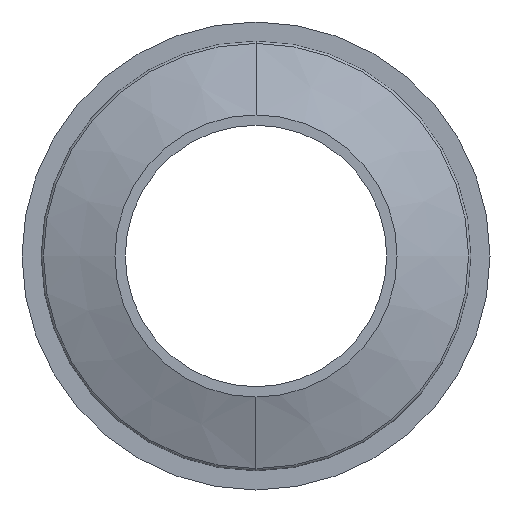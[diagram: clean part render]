
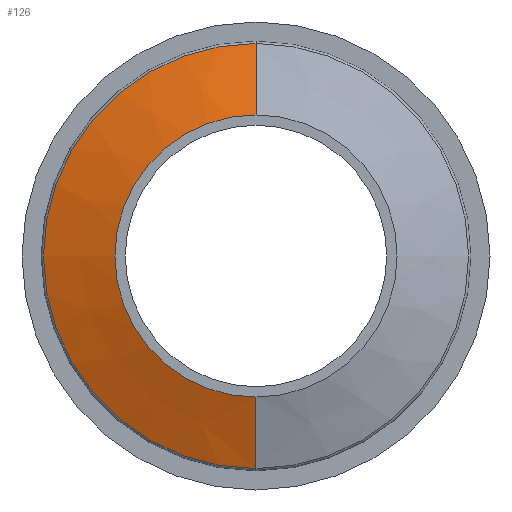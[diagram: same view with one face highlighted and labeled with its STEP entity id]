
A CAD part, left-side view. The second image highlights one B-rep face of the part: STEP entity #126.
In plain terms, the highlighted conical face has half-angle 70 degrees and reference radius 30.884 mm.
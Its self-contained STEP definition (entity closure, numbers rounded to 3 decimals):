
#23 = CIRCLE ( 'NONE', #107, 30.884 ) ;
#27 = EDGE_LOOP ( 'NONE', ( #367, #312, #85, #483 ) ) ;
#57 = DIRECTION ( 'NONE',  ( 0., 0., -1. ) ) ;
#60 = VERTEX_POINT ( 'NONE', #302 ) ;
#61 = EDGE_CURVE ( 'NONE', #60, #225, #23, .T. ) ;
#66 = CARTESIAN_POINT ( 'NONE',  ( -8.74, 0., 0. ) ) ;
#85 = ORIENTED_EDGE ( 'NONE', *, *, #61, .T. ) ;
#90 = CARTESIAN_POINT ( 'NONE',  ( -8.74, 0., 0. ) ) ;
#107 = AXIS2_PLACEMENT_3D ( 'NONE', #90, #501, #134 ) ;
#126 = ADVANCED_FACE ( 'NONE', ( #224 ), #203, .T. ) ;
#134 = DIRECTION ( 'NONE',  ( 0., 0., 1. ) ) ;
#144 = EDGE_CURVE ( 'NONE', #202, #60, #347, .T. ) ;
#149 = CARTESIAN_POINT ( 'NONE',  ( -12.519, 0., 20.5 ) ) ;
#184 = EDGE_CURVE ( 'NONE', #202, #479, #218, .T. ) ;
#202 = VERTEX_POINT ( 'NONE', #149 ) ;
#203 = CONICAL_SURFACE ( 'NONE', #338, 30.884, 1.222 ) ;
#218 = CIRCLE ( 'NONE', #247, 20.5 ) ;
#224 = FACE_OUTER_BOUND ( 'NONE', #27, .T. ) ;
#225 = VERTEX_POINT ( 'NONE', #431 ) ;
#231 = CARTESIAN_POINT ( 'NONE',  ( -8.74, 0., -30.884 ) ) ;
#247 = AXIS2_PLACEMENT_3D ( 'NONE', #357, #521, #512 ) ;
#258 = EDGE_CURVE ( 'NONE', #479, #225, #311, .T. ) ;
#276 = VECTOR ( 'NONE', #509, 1000. ) ;
#302 = CARTESIAN_POINT ( 'NONE',  ( -8.74, 0., 30.884 ) ) ;
#311 = LINE ( 'NONE', #231, #430 ) ;
#312 = ORIENTED_EDGE ( 'NONE', *, *, #144, .T. ) ;
#315 = CARTESIAN_POINT ( 'NONE',  ( -8.74, 0., 30.884 ) ) ;
#338 = AXIS2_PLACEMENT_3D ( 'NONE', #66, #470, #57 ) ;
#339 = CARTESIAN_POINT ( 'NONE',  ( -12.519, 0., -20.5 ) ) ;
#347 = LINE ( 'NONE', #315, #276 ) ;
#357 = CARTESIAN_POINT ( 'NONE',  ( -12.519, 0., 0. ) ) ;
#367 = ORIENTED_EDGE ( 'NONE', *, *, #184, .F. ) ;
#430 = VECTOR ( 'NONE', #468, 1000. ) ;
#431 = CARTESIAN_POINT ( 'NONE',  ( -8.74, 0., -30.884 ) ) ;
#468 = DIRECTION ( 'NONE',  ( 0.342, 0., -0.94 ) ) ;
#470 = DIRECTION ( 'NONE',  ( 1., 0., 0. ) ) ;
#479 = VERTEX_POINT ( 'NONE', #339 ) ;
#483 = ORIENTED_EDGE ( 'NONE', *, *, #258, .F. ) ;
#501 = DIRECTION ( 'NONE',  ( -1., 0., 0. ) ) ;
#509 = DIRECTION ( 'NONE',  ( 0.342, 0., 0.94 ) ) ;
#512 = DIRECTION ( 'NONE',  ( 0., 0., 1. ) ) ;
#521 = DIRECTION ( 'NONE',  ( -1., 0., 0. ) ) ;
